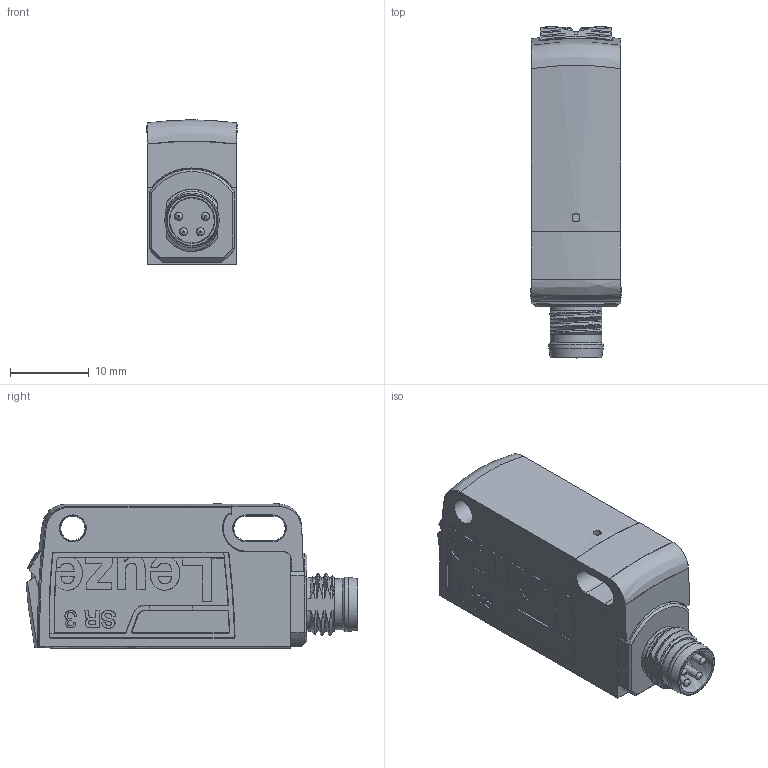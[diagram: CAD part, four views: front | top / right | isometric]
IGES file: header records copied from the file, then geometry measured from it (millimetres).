
Global section: file name: E:\lem\3DCAD_BR3C_M8_slot.igs; native system: NX V8.5; preprocessor: SIEMENS PLM Software NX 8.5; date: 20160205.143708; units: millimetre
Bounding box: 11.44 x 42.14 x 18.3 mm (x, y, z)
Surface area: 3467 mm2 (no closed solid volume)
Topology: 0 solids, 0 shells, 531 faces, 3010 edges, 2964 vertices
Faces by surface type: bspline 531
